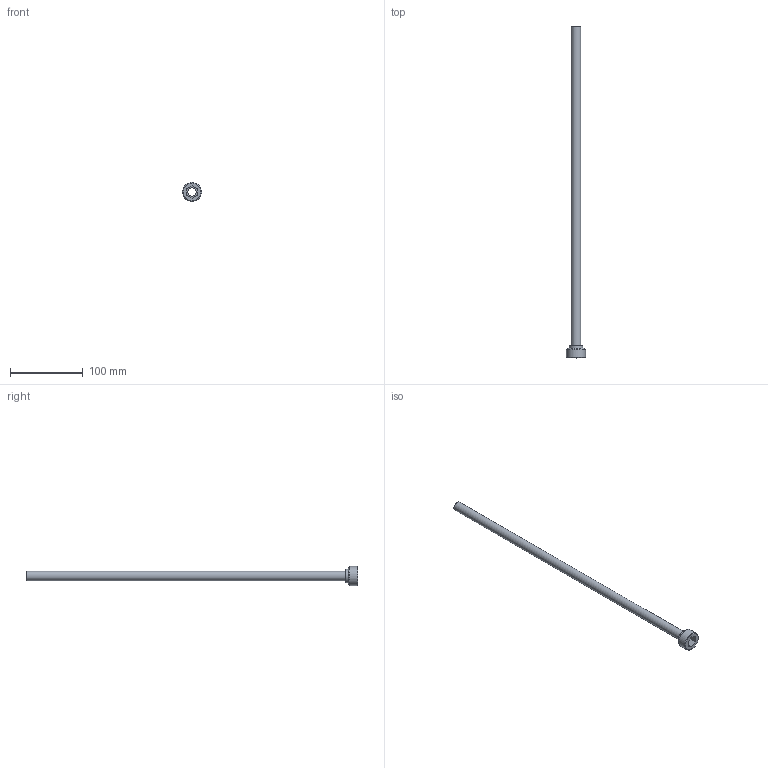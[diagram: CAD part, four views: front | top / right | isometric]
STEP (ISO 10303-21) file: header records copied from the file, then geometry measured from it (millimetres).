
FILE_DESCRIPTION(/* description */ (''),/* implementation_level */ '2;1');
FILE_NAME(/* name */ 'C:/Users/drich/Desktop/PT34-500-18 v1.step',/* time_stamp */ '2019-12-27T15:48:50-06:00',/* author */ (''),/* organization */ (''),/* preprocessor_version */ 'ST-DEVELOPER v18',/* originating_system */ 'Autodesk Translation Framework v8.12.0.6',/* authorisation */ '');
FILE_SCHEMA (('AUTOMOTIVE_DESIGN { 1 0 10303 214 3 1 1 }'));
Length unit declared in the file: inch
Products named in the file (1): PT34-500-18
Bounding box: 26.3 x 457.2 x 26.3 mm (x, y, z)
Volume: 17300.6 mm3; surface area: 36029.8 mm2
Topology: 1 solids, 1 shells, 19 faces, 48 edges, 34 vertices
Faces by surface type: plane 11, cylinder 4, torus 2, cone 2
Full cylindrical faces by diameter (mm): 11.278 x1, 12.7 x1, 19.05 x1, 26.299 x1
Entity records: 633 total; most frequent: DIRECTION 112, CARTESIAN_POINT 102, ORIENTED_EDGE 96, EDGE_CURVE 48, AXIS2_PLACEMENT_3D 44, VERTEX_POINT 34, CIRCLE 24, EDGE_LOOP 24
